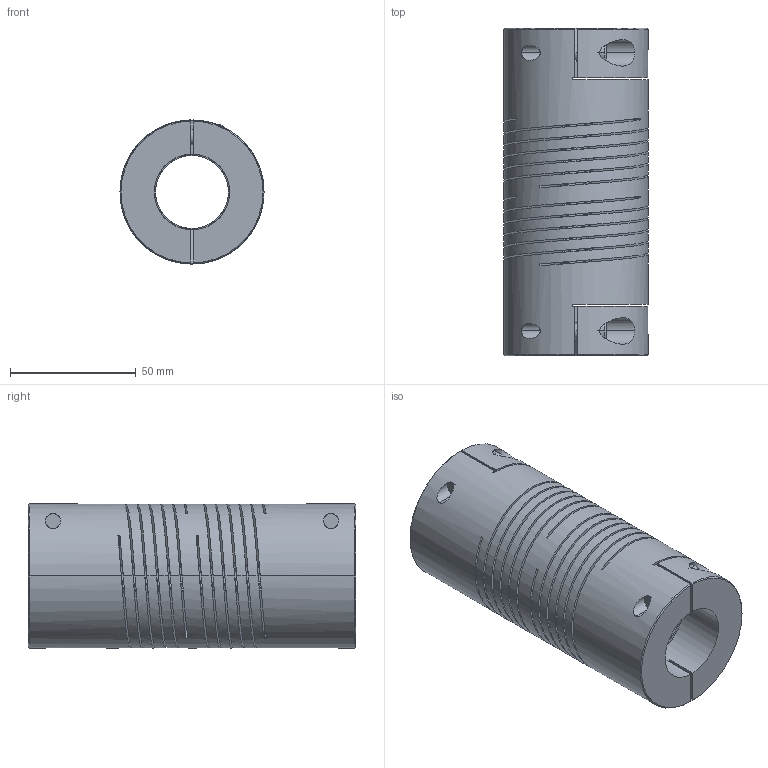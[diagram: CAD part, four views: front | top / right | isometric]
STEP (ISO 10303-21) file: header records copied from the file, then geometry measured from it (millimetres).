
FILE_DESCRIPTION((''),'2;1');
FILE_NAME('707_57','2006-12-06T',('Gary Melling'),(''),'PRO/ENGINEER BY PARAMETRIC TECHNOLOGY CORPORATION, 2006240','PRO/ENGINEER BY PARAMETRIC TECHNOLOGY CORPORATION, 2006240','');
FILE_SCHEMA(('CONFIG_CONTROL_DESIGN'));
Length unit declared in the file: millimetre
Products named in the file (1): 707_57
Bounding box: 57.2 x 130 x 57.2 mm (x, y, z)
Volume: 223793.2 mm3; surface area: 87327.1 mm2
Topology: 1 solids, 1 shells, 136 faces, 406 edges, 268 vertices
Faces by surface type: cylinder 60, plane 58, bspline 12, cone 6
Entity records: 8042 total; most frequent: CARTESIAN_POINT 4554, ORIENTED_EDGE 812, DIRECTION 584, EDGE_CURVE 406, VERTEX_POINT 268, VECTOR 204, LINE 204, AXIS2_PLACEMENT_3D 190
